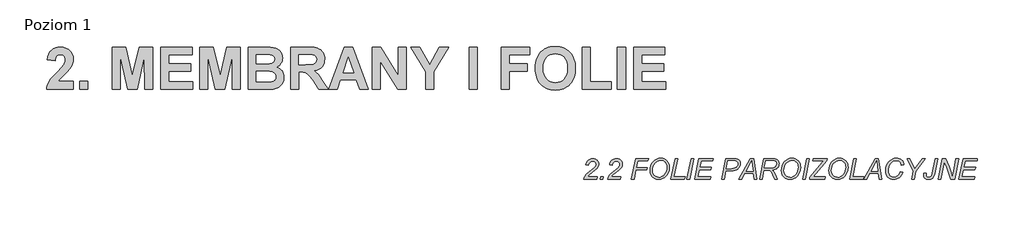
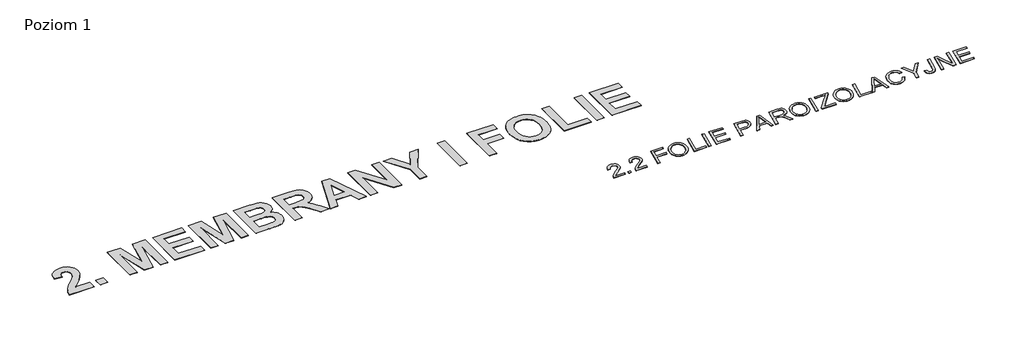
# One storey, incomplete: 2 proxies.
"""IFC4 building model written with IfcOpenShell, lengths in millimetres."""

import ifcopenshell
import ifcopenshell.guid

model = None  # the IFC model being written
_history = None  # IfcOwnerHistory: only IFC2X3 demands one
_inside = {}  # id of a spatial element -> (the spatial element, [elements in it])
_under = {}  # id of a project, library or spatial element -> (it, [spatial elements below it])
_declared = {}  # id of a project -> (the project, [libraries it declares])
_typed = {}  # id of a type object -> (the type object, [elements of that type])
_made_of = {}  # id of a material, layer set ... -> (it, [elements and type objects made of it])


def new_model(schema):
    """Start an empty IFC model of exactly this schema.

    Asked for "IFC4X3", IfcOpenShell would pick the latest addendum, in which some entities
    have other attributes; the version numbers below select the first issue.
    IFC2X3 requires an IfcOwnerHistory on every rooted entity: one is made here for all.
    """
    global model, _history
    if schema == "IFC4X3":
        model = ifcopenshell.file(schema_version=(4, 3, 0, 0))
    else:
        model = ifcopenshell.file(schema=schema)
    _inside.clear()
    _under.clear()
    _declared.clear()
    _typed.clear()
    _made_of.clear()
    _history = None
    if model.schema == "IFC2X3":
        org = make("IfcOrganization", Name="unknown")
        user = make(
            "IfcPersonAndOrganization",
            ThePerson=make("IfcPerson", FamilyName="unknown"),
            TheOrganization=org,
        )
        app = make(
            "IfcApplication",
            ApplicationDeveloper=org,
            Version="unknown",
            ApplicationFullName="unknown",
            ApplicationIdentifier="unknown",
        )
        _history = make(
            "IfcOwnerHistory",
            OwningUser=user,
            OwningApplication=app,
            ChangeAction="ADDED",
            CreationDate=0,
        )
    return model


def make(cls, **values):
    """One entity of the class cls with the attributes given. An attribute that is None is left unset."""
    return model.create_entity(
        cls, **{name: value for name, value in values.items() if value is not None}
    )


def rooted(cls, **values):
    """An entity with a GlobalId (a new one), such as an element, a storey or a relation."""
    return make(cls, GlobalId=ifcopenshell.guid.new(), OwnerHistory=_history, **values)


def si_unit(unit_type, name, prefix=None):
    """IfcSIUnit, for example si_unit("LENGTHUNIT", "METRE", prefix="MILLI")."""
    return make("IfcSIUnit", UnitType=unit_type, Prefix=prefix, Name=name)


def assignment(units):
    """IfcUnitAssignment: the units of a project."""
    return None if units is None else make("IfcUnitAssignment", Units=units)


def point(xyz):
    """IfcCartesianPoint."""
    return None if xyz is None else make("IfcCartesianPoint", Coordinates=xyz)


def direction(xyz):
    """IfcDirection."""
    return None if xyz is None else make("IfcDirection", DirectionRatios=xyz)


def frame(location, z_axis=None, x_axis=None):
    """IfcAxis2Placement3D, a coordinate frame: its origin and axes. An axis left out is left unset."""
    return make(
        "IfcAxis2Placement3D",
        Location=point(location),
        Axis=direction(z_axis),
        RefDirection=direction(x_axis),
    )


def origin():
    """The frame at (0, 0, 0) with its axes left unset."""
    return frame((0.0, 0.0, 0.0))


def origin_with_axes():
    """The frame at (0, 0, 0) with the z axis (0, 0, 1) and the x axis (1, 0, 0) written out."""
    return frame((0.0, 0.0, 0.0), z_axis=(0.0, 0.0, 1.0), x_axis=(1.0, 0.0, 0.0))


def place(relative_to, where):
    """IfcLocalPlacement: puts the frame where relative to a parent placement (None: the world)."""
    return make(
        "IfcLocalPlacement", PlacementRelTo=relative_to, RelativePlacement=where
    )


def context(
    kind, dimensions, precision=None, world=None, true_north=None, identifier=None
):
    """IfcGeometricRepresentationContext, for example the 3D "Model" context."""
    return make(
        "IfcGeometricRepresentationContext",
        ContextIdentifier=identifier,
        ContextType=kind,
        CoordinateSpaceDimension=dimensions,
        Precision=precision,
        WorldCoordinateSystem=world,
        TrueNorth=true_north,
    )


def project(units=None, contexts=None):
    """IfcProject with its units and contexts."""
    return rooted(
        "IfcProject",
        Name="project",
        RepresentationContexts=contexts,
        UnitsInContext=assignment(units),
    )


def spatial(cls, under=None, at=None, **own):
    """A site, building, storey or space (cls), placed at a placement, below another one or the project."""
    s = rooted(cls, ObjectPlacement=at, **own)
    if under is not None:
        _under.setdefault(under.id(), (under, []))[1].append(s)
    return s


def polyline(points):
    """IfcPolyline through the points."""
    return make("IfcPolyline", Points=[point(p) for p in points])


def outline(outer, holes=None, kind="AREA"):
    """IfcArbitraryClosedProfileDef: a profile drawn as a closed curve; with holes, ...WithVoids."""
    if holes is None:
        return make("IfcArbitraryClosedProfileDef", ProfileType=kind, OuterCurve=outer)
    return make(
        "IfcArbitraryProfileDefWithVoids",
        ProfileType=kind,
        OuterCurve=outer,
        InnerCurves=holes,
    )


def extrude(swept, where, along, depth):
    """IfcExtrudedAreaSolid: the profile swept, set in the frame where, extruded along a direction by depth."""
    return make(
        "IfcExtrudedAreaSolid",
        SweptArea=swept,
        Position=where,
        ExtrudedDirection=direction(along),
        Depth=depth,
    )


def shape(context_of_items, identifier, shape_type, items):
    """IfcShapeRepresentation: the items that make up one representation, for example the "Body"."""
    return make(
        "IfcShapeRepresentation",
        ContextOfItems=context_of_items,
        RepresentationIdentifier=identifier,
        RepresentationType=shape_type,
        Items=items,
    )


def made_of(thing, what):
    """Note that an element or type object is made of a material, layer set ...; save() writes the relation."""
    if what is not None:
        _made_of.setdefault(what.id(), (what, []))[1].append(thing)
    return thing


def element(
    cls,
    number,
    at=None,
    inside=None,
    cuts=None,
    type_object=None,
    material=None,
    context=None,
    identifier="Body",
    shape_type=None,
    held_by="IfcProductDefinitionShape",
    body=None,
    shapes=None,
    **own,
):
    """One element of the class cls, such as IfcWall. Its Tag is "e" and its number.

    at: its placement. inside: the storey or other place that contains it. cuts: it is an
    opening in that element (IfcRelVoidsElement). A single representation is given by context,
    identifier, shape_type and body (its items); several are given by shapes. held_by: the class
    of the entity that holds the representations. save() writes the other relations.
    """
    e = rooted(cls, Tag="e%d" % number, ObjectPlacement=at, **own)
    if body is not None:
        shapes = [shape(context, identifier, shape_type, body)]
    if shapes is not None:
        e.Representation = make(held_by, Representations=shapes)
    if inside is not None:
        _inside.setdefault(inside.id(), (inside, []))[1].append(e)
    if cuts is not None:
        rooted(
            "IfcRelVoidsElement", RelatingBuildingElement=cuts, RelatedOpeningElement=e
        )
    if type_object is not None:
        _typed.setdefault(type_object.id(), (type_object, []))[1].append(e)
    return made_of(e, material)


def aggregate(whole, parts):
    """IfcRelAggregates: a whole, such as a stair, and the parts it consists of."""
    return rooted("IfcRelAggregates", RelatingObject=whole, RelatedObjects=parts)


def save(model, path):
    """Write the relations noted so far, then the file.

    IfcRelAggregates (storeys below a building ...), IfcRelContainedInSpatialStructure (elements
    in a storey), IfcRelDefinesByType, IfcRelAssociatesMaterial and IfcRelDeclares: one each for
    every whole, place, type object, material and project.
    """
    for whole, parts in _under.values():
        aggregate(whole, parts)
    for where, things in _inside.values():
        rooted(
            "IfcRelContainedInSpatialStructure",
            RelatedElements=things,
            RelatingStructure=where,
        )
    for kind, things in _typed.values():
        rooted("IfcRelDefinesByType", RelatedObjects=things, RelatingType=kind)
    for what, things in _made_of.values():
        rooted("IfcRelAssociatesMaterial", RelatedObjects=things, RelatingMaterial=what)
    for by, libraries in _declared.values():
        rooted("IfcRelDeclares", RelatingContext=by, RelatedDefinitions=libraries)
    model.write(path)


model = new_model("IFC4")

# Units and contexts
model_context = context("Model", 3, world=origin())
ifc_project = project(units=[si_unit("LENGTHUNIT", "METRE", prefix="MILLI")], contexts=[model_context])

# Site, building, storey
site = spatial("IfcSite", under=ifc_project)
building = spatial("IfcBuilding", under=site)
storey = spatial("IfcBuildingStorey", under=building, Name="Poziom 1", Elevation=0.0)

# Proxies
placement = place(None, origin())
element("IfcBuildingElementProxy", 1, Name="400 mm Arial", ObjectType="400 mm Arial", at=placement, inside=storey, context=model_context, shape_type="SweptSolid", body=[
    extrude(outline(polyline([(-5822.0749351, 16251.1796723), (-5812.9528944, 16283.4355908), (-5800.8898025, 16310.000695), (-5785.1324635, 16333.1106618), (-5764.9276813, 16355.0011685), (-5678.609026, 16423.625695), (-5625.5266396, 16465.9003162), (-5607.8564218, 16485.4355908), (-5595.7813745, 16504.6361116), (-5591.0469995, 16518.1219071), (-5589.4688745, 16532.7554298), (-5594.3586709, 16556.3675274), (-5609.0280601, 16576.1299563), (-5630.8229228, 16589.5081524), (-5657.0891396, 16593.967551), (-5683.4510004, 16589.4483749), (-5706.2979464, 16575.8908465), (-5724.3626955, 16552.3385264), (-5736.3779654, 16517.8349753), (-5785.3476623, 16524.3387632), (-5780.10219, 16550.4256476), (-5771.4434247, 16573.5953919), (-5759.3713662, 16593.8479961), (-5743.8860146, 16611.1834601), (-5725.6389443, 16625.0757423), (-5705.2817296, 16634.998801), (-5682.8143704, 16640.9526363), (-5658.2368669, 16642.937248), (-5625.6103281, 16639.4103777), (-5596.2117722, 16628.8297669), (-5571.8823451, 16611.8768787), (-5554.4631927, 16589.233176), (-5543.9901813, 16563.325624), (-5540.4991775, 16536.5811874), (-5542.2685904, 16516.9682021), (-5547.576829, 16497.725837), (-5556.4238934, 16478.8540922), (-5568.8097836, 16460.3529677), (-5603.0981358, 16428.7904677), (-5671.1487987, 16376.5688768), (-5725.4267343, 16332.5726647), (-5752.2548593, 16300.1493692), (-5571.1052381, 16300.1493692), (-5580.765276, 16251.1796723), (-5822.0749351, 16251.1796723)])), origin_with_axes(), (0.0, 0.0, 1.0), 5.0),
    extrude(outline(polyline([(-5515.2491775, 16251.1796723), (-5503.7719048, 16300.1493692), (-5454.8022078, 16300.1493692), (-5465.3230411, 16251.1796723), (-5515.2491775, 16251.1796723)])), origin_with_axes(), (0.0, 0.0, 1.0), 5.0),
    extrude(outline(polyline([(-5369.1052381, 16251.1796723), (-5359.9831974, 16283.4355908), (-5347.9201055, 16310.000695), (-5332.1627665, 16333.1106618), (-5311.9579843, 16355.0011685), (-5225.639329, 16423.625695), (-5172.5569427, 16465.9003162), (-5154.8867248, 16485.4355908), (-5142.8116775, 16504.6361116), (-5138.0773025, 16518.1219071), (-5136.4991775, 16532.7554298), (-5141.3889739, 16556.3675274), (-5156.0583631, 16576.1299563), (-5177.8532258, 16589.5081524), (-5204.1194427, 16593.967551), (-5230.4813034, 16589.4483749), (-5253.3282495, 16575.8908465), (-5271.3929985, 16552.3385264), (-5283.4082684, 16517.8349753), (-5332.3779654, 16524.3387632), (-5327.1324931, 16550.4256476), (-5318.4737277, 16573.5953919), (-5306.4016692, 16593.8479961), (-5290.9163177, 16611.1834601), (-5272.6692473, 16625.0757423), (-5252.3120326, 16634.998801), (-5229.8446735, 16640.9526363), (-5205.2671699, 16642.937248), (-5172.6406311, 16639.4103777), (-5143.2420752, 16628.8297669), (-5118.9126481, 16611.8768787), (-5101.4934957, 16589.233176), (-5091.0204843, 16563.325624), (-5087.5294805, 16536.5811874), (-5089.2988934, 16516.9682021), (-5094.607132, 16497.725837), (-5103.4541964, 16478.8540922), (-5115.8400866, 16460.3529677), (-5150.1284389, 16428.7904677), (-5218.1791017, 16376.5688768), (-5272.4570373, 16332.5726647), (-5299.2851623, 16300.1493692), (-5118.1355411, 16300.1493692), (-5127.795579, 16251.1796723), (-5369.1052381, 16251.1796723)])), origin_with_axes(), (0.0, 0.0, 1.0), 5.0),
    extrude(outline(polyline([(-4916.1355411, 16251.1796723), (-4836.9423593, 16642.937248), (-4588.8419805, 16642.937248), (-4601.0844048, 16600.0887632), (-4795.8154654, 16600.0887632), (-4821.8306169, 16471.5433086), (-4614.0919805, 16471.5433086), (-4626.3344048, 16428.6948238), (-4830.5342154, 16428.6948238), (-4866.4006927, 16251.1796723), (-4916.1355411, 16251.1796723)])), origin_with_axes(), (0.0, 0.0, 1.0), 5.0),
    extrude(outline(polyline([(-4561.1052381, 16415.3046723), (-4557.3781133, 16465.0783761), (-4546.1967391, 16509.8606618), (-4527.5611152, 16549.6515295), (-4501.4712419, 16584.4509791), (-4470.0671522, 16612.716752), (-4435.4888792, 16632.9065899), (-4397.736423, 16645.0204926), (-4356.8097836, 16649.0584601), (-4322.4198096, 16646.0845314), (-4291.365418, 16637.1627452), (-4263.6466088, 16622.2931015), (-4239.263382, 16601.4756003), (-4219.3873759, 16575.6607033), (-4205.1902286, 16545.7988721), (-4196.6719403, 16511.8901067), (-4193.8325108, 16473.9344071), (-4199.5472362, 16418.9869639), (-4216.6914123, 16368.1522101), (-4236.0473546, 16334.1866562), (-4259.874651, 16305.170676), (-4286.8581974, 16281.6781334), (-4315.6828896, 16264.2828919), (-4356.3793858, 16249.8645681), (-4399.4669805, 16245.0584601), (-4443.7023025, 16250.6536306), (-4483.8249351, 16267.4391419), (-4517.2764029, 16294.2553115), (-4541.4982305, 16329.9424563), (-4556.2034862, 16371.3443266), (-4561.1052381, 16415.3046723)]), holes=[polyline([(-4512.1355411, 16412.7222859), (-4508.5608489, 16379.6175274), (-4497.8367722, 16349.358176), (-4480.0230885, 16323.6538673), (-4455.1795752, 16304.2142366), (-4426.0918622, 16291.9837679), (-4395.545579, 16287.906945), (-4366.0513792, 16291.4816372), (-4338.0157495, 16302.2057139), (-4312.1560194, 16319.3140236), (-4289.1895184, 16342.0414147), (-4269.9411756, 16370.5074421), (-4255.2359199, 16404.8316609), (-4245.9106358, 16441.809999), (-4242.8022078, 16478.2383844), (-4244.8495859, 16505.9781157), (-4250.9917201, 16530.7588626), (-4261.2286105, 16552.5806251), (-4275.560257, 16571.4434033), (-4292.8987099, 16586.6537785), (-4312.1560194, 16597.5183323), (-4333.3321853, 16604.0370645), (-4356.4272078, 16606.2099753), (-4386.3159389, 16602.9281926), (-4414.3874351, 16593.0828446), (-4440.6416964, 16576.6739312), (-4465.078723, 16553.7014526), (-4485.6660809, 16525.1995586), (-4500.3713366, 16492.2023995), (-4509.19449, 16454.7099753), (-4512.1355411, 16412.7222859)])]), origin_with_axes(), (0.0, 0.0, 1.0), 5.0),
    extrude(outline(polyline([(-4163.2264502, 16251.1796723), (-4083.6506927, 16642.937248), (-4033.9158442, 16642.937248), (-4104.7880033, 16294.0281571), (-3893.8931169, 16294.0281571), (-3906.1355411, 16251.1796723), (-4163.2264502, 16251.1796723)])), origin_with_axes(), (0.0, 0.0, 1.0), 5.0),
    extrude(outline(polyline([(-3857.1658442, 16251.1796723), (-3777.5900866, 16642.937248), (-3727.8552381, 16642.937248), (-3807.4309957, 16251.1796723), (-3857.1658442, 16251.1796723)])), origin_with_axes(), (0.0, 0.0, 1.0), 5.0),
    extrude(outline(polyline([(-3710.2567533, 16251.1796723), (-3630.6809957, 16642.937248), (-3355.2264502, 16642.937248), (-3361.4433063, 16600.0887632), (-3589.6497457, 16600.0887632), (-3614.5171699, 16477.6645207), (-3391.953723, 16477.6645207), (-3404.1961472, 16434.8160359), (-3623.2207684, 16434.8160359), (-3651.8183063, 16294.0281571), (-3406.3003139, 16294.0281571), (-3415.482132, 16251.1796723), (-3710.2567533, 16251.1796723)])), origin_with_axes(), (0.0, 0.0, 1.0), 5.0),
    extrude(outline(polyline([(-3196.0749351, 16251.1796723), (-3116.8817533, 16642.937248), (-2953.6175487, 16642.937248), (-2916.5316112, 16640.4983276), (-2890.014329, 16633.1815662), (-2870.6225203, 16619.9587916), (-2854.9130033, 16599.8018313), (-2844.5117248, 16574.7431192), (-2841.044632, 16546.8150889), (-2843.519419, 16522.3182849), (-2850.9437798, 16497.4149942), (-2862.1460762, 16474.5082707), (-2875.9546699, 16456.0011685), (-2891.1620563, 16441.7023995), (-2906.5607305, 16431.420676), (-2939.7491775, 16419.1304298), (-2977.6480885, 16412.530998), (-3015.9773972, 16410.3311874), (-3114.108079, 16410.3311874), (-3146.2444427, 16251.1796723), (-3196.0749351, 16251.1796723)]), holes=[polyline([(-3105.4044805, 16453.1796723), (-3017.4120563, 16453.1796723), (-2973.0452239, 16455.9055245), (-2942.2837419, 16464.0830813), (-2920.775811, 16477.8438531), (-2904.169632, 16497.3193503), (-2893.5531548, 16520.3336732), (-2890.014329, 16544.7109223), (-2891.9272078, 16562.2615851), (-2897.6658442, 16576.2734223), (-2906.8954843, 16586.901855), (-2919.2813745, 16594.3023048), (-2939.6535336, 16598.6421486), (-2972.8419805, 16600.0887632), (-3075.6592154, 16600.0887632), (-3105.4044805, 16453.1796723)])]), origin_with_axes(), (0.0, 0.0, 1.0), 5.0),
    extrude(outline(polyline([(-2867.7292911, 16251.1796723), (-2648.513382, 16642.937248), (-2586.5361093, 16642.937248), (-2524.8457684, 16251.1796723), (-2574.2936851, 16251.1796723), (-2589.9792911, 16361.3614904), (-2753.0522078, 16361.3614904), (-2812.8296699, 16251.1796723), (-2867.7292911, 16251.1796723)]), holes=[polyline([(-2727.7065639, 16404.2099753), (-2596.0048593, 16404.2099753), (-2609.7775866, 16502.1493692), (-2623.7416017, 16600.0887632), (-2666.8770184, 16520.5130056), (-2727.7065639, 16404.2099753)])]), origin_with_axes(), (0.0, 0.0, 1.0), 5.0),
    extrude(outline(polyline([(-2473.7719048, 16251.1796723), (-2394.1961472, 16642.937248), (-2228.732132, 16642.937248), (-2185.6804038, 16640.8569923), (-2154.4646131, 16634.6162253), (-2131.8926434, 16622.6368219), (-2114.7723783, 16603.3406571), (-2103.9765686, 16577.3972385), (-2100.3779654, 16545.4760738), (-2102.3147552, 16522.0791751), (-2108.1251245, 16500.7625321), (-2117.8090733, 16481.5261448), (-2131.3666017, 16464.3700132), (-2149.2460407, 16449.6707352), (-2171.8957211, 16437.804909), (-2199.3156429, 16428.7725345), (-2231.5058063, 16422.5736116), (-2212.7835052, 16408.2509317), (-2199.2737987, 16394.1673616), (-2180.1210998, 16358.946481), (-2165.1289123, 16322.530051), (-2131.0796699, 16251.1796723), (-2184.544632, 16251.1796723), (-2218.7851623, 16322.9126268), (-2233.9208158, 16359.3051457), (-2251.0171699, 16390.437248), (-2264.6105648, 16406.8282281), (-2278.8017343, 16416.4045776), (-2297.7990118, 16421.0313531), (-2325.8107305, 16422.5736116), (-2389.2226623, 16422.5736116), (-2424.0370563, 16251.1796723), (-2473.7719048, 16251.1796723)]), holes=[polyline([(-2380.5190639, 16465.4220965), (-2305.4385714, 16465.4220965), (-2237.6270184, 16465.4220965), (-2210.667383, 16470.3955813), (-2189.0877192, 16479.1948238), (-2172.3141633, 16491.7600463), (-2159.7728517, 16508.0314715), (-2151.9539597, 16526.8374611), (-2149.3476623, 16547.0063768), (-2151.3322741, 16563.4690899), (-2157.2861093, 16577.6602594), (-2166.4679275, 16588.6234459), (-2178.1364881, 16595.4022101), (-2195.5675961, 16598.9171249), (-2222.0370563, 16600.0887632), (-2353.1648972, 16600.0887632), (-2380.5190639, 16465.4220965)])]), origin_with_axes(), (0.0, 0.0, 1.0), 5.0),
    extrude(outline(polyline([(-2057.5294805, 16415.3046723), (-2053.8023558, 16465.0783761), (-2042.6209815, 16509.8606618), (-2023.9853577, 16549.6515295), (-1997.8954843, 16584.4509791), (-1966.4913946, 16612.716752), (-1931.9131216, 16632.9065899), (-1894.1606654, 16645.0204926), (-1853.234026, 16649.0584601), (-1818.844052, 16646.0845314), (-1787.7896605, 16637.1627452), (-1760.0708513, 16622.2931015), (-1735.6876245, 16601.4756003), (-1715.8116183, 16575.6607033), (-1701.6144711, 16545.7988721), (-1693.0961827, 16511.8901067), (-1690.2567533, 16473.9344071), (-1695.9714786, 16418.9869639), (-1713.1156548, 16368.1522101), (-1732.471597, 16334.1866562), (-1756.2988934, 16305.170676), (-1783.2824398, 16281.6781334), (-1812.107132, 16264.2828919), (-1852.8036283, 16249.8645681), (-1895.891223, 16245.0584601), (-1940.1265449, 16250.6536306), (-1980.2491775, 16267.4391419), (-2013.7006453, 16294.2553115), (-2037.922473, 16329.9424563), (-2052.6277286, 16371.3443266), (-2057.5294805, 16415.3046723)]), holes=[polyline([(-2008.5597836, 16412.7222859), (-2004.9850913, 16379.6175274), (-1994.2610146, 16349.358176), (-1976.4473309, 16323.6538673), (-1951.6038177, 16304.2142366), (-1922.5161046, 16291.9837679), (-1891.9698214, 16287.906945), (-1862.4756216, 16291.4816372), (-1834.4399919, 16302.2057139), (-1808.5802618, 16319.3140236), (-1785.6137608, 16342.0414147), (-1766.365418, 16370.5074421), (-1751.6601623, 16404.8316609), (-1742.3348783, 16441.809999), (-1739.2264502, 16478.2383844), (-1741.2738283, 16505.9781157), (-1747.4159625, 16530.7588626), (-1757.6528529, 16552.5806251), (-1771.9844995, 16571.4434033), (-1789.3229524, 16586.6537785), (-1808.5802618, 16597.5183323), (-1829.7564277, 16604.0370645), (-1852.8514502, 16606.2099753), (-1882.7401813, 16602.9281926), (-1910.8116775, 16593.0828446), (-1937.0659389, 16576.6739312), (-1961.5029654, 16553.7014526), (-1982.0903233, 16525.1995586), (-1996.795579, 16492.2023995), (-2005.6187324, 16454.7099753), (-2008.5597836, 16412.7222859)])]), origin_with_axes(), (0.0, 0.0, 1.0), 5.0),
    extrude(outline(polyline([(-1653.5294805, 16251.1796723), (-1573.953723, 16642.937248), (-1524.2188745, 16642.937248), (-1603.794632, 16251.1796723), (-1653.5294805, 16251.1796723)])), origin_with_axes(), (0.0, 0.0, 1.0), 5.0),
    extrude(outline(polyline([(-1518.8628139, 16251.1796723), (-1512.7416017, 16287.906945), (-1315.9063745, 16522.2345965), (-1274.9707684, 16570.7260738), (-1250.390276, 16600.0887632), (-1285.4916017, 16600.0887632), (-1298.4991775, 16600.0887632), (-1314.1847836, 16600.0887632), (-1329.5834578, 16600.0887632), (-1462.8154654, 16600.0887632), (-1453.5380033, 16642.937248), (-1182.1961472, 16642.937248), (-1187.265276, 16601.905998), (-1397.7775866, 16351.4145207), (-1445.982132, 16294.0281571), (-1431.0616775, 16294.0281571), (-1221.4101623, 16294.0281571), (-1230.6876245, 16251.1796723), (-1518.8628139, 16251.1796723)])), origin_with_axes(), (0.0, 0.0, 1.0), 5.0),
    extrude(outline(polyline([(-1151.5900866, 16415.3046723), (-1147.8629618, 16465.0783761), (-1136.6815875, 16509.8606618), (-1118.0459637, 16549.6515295), (-1091.9560904, 16584.4509791), (-1060.5520007, 16612.716752), (-1025.9737277, 16632.9065899), (-988.2212715, 16645.0204926), (-947.294632, 16649.0584601), (-912.9046581, 16646.0845314), (-881.8502665, 16637.1627452), (-854.1314573, 16622.2931015), (-829.7482305, 16601.4756003), (-809.8722244, 16575.6607033), (-795.6750771, 16545.7988721), (-787.1567888, 16511.8901067), (-784.3173593, 16473.9344071), (-790.0320847, 16418.9869639), (-807.1762608, 16368.1522101), (-826.5322031, 16334.1866562), (-850.3594995, 16305.170676), (-877.3430459, 16281.6781334), (-906.1677381, 16264.2828919), (-946.8642343, 16249.8645681), (-989.951829, 16245.0584601), (-1034.187151, 16250.6536306), (-1074.3097836, 16267.4391419), (-1107.7612514, 16294.2553115), (-1131.983079, 16329.9424563), (-1146.6883347, 16371.3443266), (-1151.5900866, 16415.3046723)]), holes=[polyline([(-1102.6203896, 16412.7222859), (-1099.0456974, 16379.6175274), (-1088.3216207, 16349.358176), (-1070.507937, 16323.6538673), (-1045.6644237, 16304.2142366), (-1016.5767106, 16291.9837679), (-986.0304275, 16287.906945), (-956.5362277, 16291.4816372), (-928.500598, 16302.2057139), (-902.6408678, 16319.3140236), (-879.6743669, 16342.0414147), (-860.4260241, 16370.5074421), (-845.7207684, 16404.8316609), (-836.3954843, 16441.809999), (-833.2870563, 16478.2383844), (-835.3344344, 16505.9781157), (-841.4765686, 16530.7588626), (-851.713459, 16552.5806251), (-866.0451055, 16571.4434033), (-883.3835584, 16586.6537785), (-902.6408678, 16597.5183323), (-923.8170338, 16604.0370645), (-946.9120563, 16606.2099753), (-976.8007873, 16602.9281926), (-1004.8722836, 16593.0828446), (-1031.1265449, 16576.6739312), (-1055.5635714, 16553.7014526), (-1076.1509294, 16525.1995586), (-1090.8561851, 16492.2023995), (-1099.6793385, 16454.7099753), (-1102.6203896, 16412.7222859)])]), origin_with_axes(), (0.0, 0.0, 1.0), 5.0),
    extrude(outline(polyline([(-753.7112987, 16251.1796723), (-674.1355411, 16642.937248), (-624.4006927, 16642.937248), (-695.2728517, 16294.0281571), (-484.3779654, 16294.0281571), (-496.6203896, 16251.1796723), (-753.7112987, 16251.1796723)])), origin_with_axes(), (0.0, 0.0, 1.0), 5.0),
    extrude(outline(polyline([(-486.577776, 16251.1796723), (-267.3618669, 16642.937248), (-205.3845942, 16642.937248), (-143.6942533, 16251.1796723), (-193.1421699, 16251.1796723), (-208.827776, 16361.3614904), (-371.9006927, 16361.3614904), (-431.6781548, 16251.1796723), (-486.577776, 16251.1796723)]), holes=[polyline([(-346.5550487, 16404.2099753), (-214.8533442, 16404.2099753), (-228.6260714, 16502.1493692), (-242.5900866, 16600.0887632), (-285.7255033, 16520.5130056), (-346.5550487, 16404.2099753)])]), origin_with_axes(), (0.0, 0.0, 1.0), 5.0),
    extrude(outline(polyline([(213.4402164, 16391.967551), (262.4099134, 16385.8463389), (248.7746743, 16353.198878), (232.3538055, 16324.7896391), (213.1473069, 16300.6186223), (191.1551786, 16280.6858276), (167.0529058, 16265.0988543), (141.515974, 16253.965302), (114.5443831, 16247.2851706), (86.1381331, 16245.0584601), (52.4475555, 16247.7723569), (22.4392695, 16255.9140473), (-3.8867248, 16269.4835312), (-26.5304275, 16288.4808086), (-44.7326647, 16312.5412371), (-57.7342627, 16341.3001741), (-65.5352215, 16374.7576197), (-68.1355411, 16412.9135738), (-64.1722954, 16463.4195515), (-52.2825582, 16509.3465757), (-32.4663295, 16550.6946462), (-4.7236093, 16587.4637632), (25.206966, 16614.4114431), (58.5687676, 16633.6597859), (95.3617955, 16645.2087916), (135.5860498, 16649.0584601), (165.1489937, 16646.9841822), (191.7649087, 16640.7613484), (215.4337948, 16630.3899587), (236.155652, 16615.8700132), (253.3805278, 16597.8471083), (266.5584693, 16576.9668408), (275.6894766, 16553.2292106), (280.7735498, 16526.6342177), (231.8038528, 16520.5130056), (220.1831142, 16558.1847622), (211.1806284, 16572.9228955), (200.0500649, 16584.9291988), (186.9707562, 16594.2395385), (172.1220346, 16600.8897812), (137.1163528, 16606.2099753), (102.6426904, 16602.2228186), (71.6241653, 16590.2613484), (44.0607775, 16570.3255648), (19.952527, 16542.4154677), (2.8382396, 16513.6326197), (-9.3862514, 16482.2793408), (-16.720946, 16448.3556311), (-19.1658442, 16411.8614904), (-17.2768764, 16383.4701848), (-11.609973, 16358.6475937), (-2.1651339, 16337.393717), (11.0576407, 16319.7085548), (27.3111326, 16305.7953505), (45.8481236, 16295.8573474), (66.6686137, 16289.8945456), (89.7726028, 16287.906945), (109.9863516, 16289.6046249), (129.2137723, 16294.6976647), (147.4548649, 16303.1860643), (164.7096293, 16315.0698238), (180.3264913, 16330.0620113), (193.6538765, 16347.875695), (204.6917849, 16368.5108749), (213.4402164, 16391.967551)])), origin_with_axes(), (0.0, 0.0, 1.0), 5.0),
    extrude(outline(polyline([(427.6826407, 16251.1796723), (458.0974134, 16401.1493692), (339.7858604, 16642.937248), (393.3464664, 16642.937248), (450.7328301, 16529.8861116), (487.4601028, 16450.6929298), (510.5820252, 16486.702873), (543.4118073, 16525.4864904), (631.3085877, 16642.937248), (690.5121861, 16642.937248), (506.9714664, 16397.2279677), (477.4174892, 16251.1796723), (427.6826407, 16251.1796723)])), origin_with_axes(), (0.0, 0.0, 1.0), 5.0),
    extrude(outline(polyline([(658.1845346, 16367.4827026), (707.4411634, 16367.4827026), (703.1371861, 16334.6768313), (706.508635, 16315.5002215), (716.6229816, 16300.6275889), (732.7628964, 16291.087106), (754.2110498, 16287.906945), (770.5661634, 16289.8676457), (784.8171104, 16295.749748), (796.7965138, 16305.7206287), (806.3369967, 16319.9476647), (819.4402164, 16364.8046723), (874.5311255, 16642.937248), (923.8833983, 16642.937248), (867.549118, 16356.4836495), (860.2891452, 16328.6393077), (850.942939, 16305.0750321), (839.5104993, 16285.7908228), (825.9918263, 16270.7866798), (810.4227863, 16259.5305837), (792.8392458, 16251.4905151), (773.2412048, 16246.6664739), (751.6286634, 16245.0584601), (728.9999051, 16246.4811637), (709.3181757, 16250.7492745), (692.5834752, 16257.8627925), (678.7958036, 16267.8217177), (668.020916, 16280.3510738), (660.3245678, 16295.1758844), (655.7067588, 16312.2961495), (654.1674892, 16331.7118692), (658.1845346, 16367.4827026)])), origin_with_axes(), (0.0, 0.0, 1.0), 5.0),
    extrude(outline(polyline([(935.7432467, 16251.1796723), (1015.3190043, 16642.937248), (1082.6523377, 16642.937248), (1141.9515801, 16491.3416041), (1184.9913528, 16374.5603541), (1206.1286634, 16300.1493692), (1227.7441937, 16411.2876268), (1272.7924892, 16642.937248), (1322.4316937, 16642.937248), (1246.299118, 16251.1796723), (1173.9922998, 16251.1796723), (1092.9818831, 16476.2298616), (1053.4809361, 16585.7421723), (1033.8739286, 16489.0461495), (985.4780952, 16251.1796723), (935.7432467, 16251.1796723)])), origin_with_axes(), (0.0, 0.0, 1.0), 5.0),
    extrude(outline(polyline([(1327.5008225, 16251.1796723), (1407.0765801, 16642.937248), (1682.5311255, 16642.937248), (1676.3142695, 16600.0887632), (1448.1078301, 16600.0887632), (1423.2404058, 16477.6645207), (1645.8038528, 16477.6645207), (1633.5614286, 16434.8160359), (1414.5368073, 16434.8160359), (1385.9392695, 16294.0281571), (1631.4572619, 16294.0281571), (1622.2754437, 16251.1796723), (1327.5008225, 16251.1796723)])), origin_with_axes(), (0.0, 0.0, 1.0), 5.0),
])
element("IfcBuildingElementProxy", 2, Name="800", ObjectType="800", at=placement, inside=storey, context=model_context, shape_type="SweptSolid", body=[
    extrude(outline(polyline([(-15561.0553841, 18116.7896585), (-15561.0553841, 17963.7896585), (-16071.0553841, 17963.7896585), (-16064.9418587, 18002.905015), (-16054.7692513, 18040.9620218), (-16040.5375618, 18077.9606791), (-16022.2467904, 18113.9009867), (-15996.9833626, 18152.2194681), (-15961.8337044, 18196.3526468), (-15916.7978157, 18246.3005228), (-15861.8756966, 18302.063096), (-15783.9811654, 18381.4517679), (-15743.5397591, 18430.359971), (-15730.640345, 18453.5938578), (-15721.4264779, 18476.6783304), (-15715.8981575, 18499.613389), (-15714.0553841, 18522.3990335), (-15715.605555, 18546.1371927), (-15720.2560677, 18566.9493265), (-15728.0069222, 18584.8354349), (-15738.8581185, 18599.7955179), (-15752.4361214, 18611.6054544), (-15768.3673958, 18620.0411234), (-15786.6519417, 18625.1025248), (-15807.2897591, 18626.7896585), (-15827.709681, 18625.1274271), (-15845.9381966, 18620.1407328), (-15861.975306, 18611.8295755), (-15875.8210091, 18600.1939554), (-15887.2262825, 18584.7109232), (-15895.9421029, 18564.8575296), (-15901.96847, 18540.6337748), (-15905.3053841, 18512.0396585), (-16058.3053841, 18525.984971), (-16048.2448372, 18585.8813333), (-16031.2116341, 18636.675889), (-16007.2057747, 18678.368638), (-15976.2272591, 18710.9595804), (-15939.6083626, 18735.4946146), (-15898.6813607, 18753.019639), (-15853.4462532, 18763.5346537), (-15803.9030404, 18767.0396585), (-15750.2633919, 18763.1113138), (-15702.6999154, 18751.3262796), (-15661.2126107, 18731.684556), (-15625.8014779, 18704.1861429), (-15597.4750618, 18670.8481302), (-15577.2419075, 18633.6876078), (-15565.102015, 18592.7045755), (-15561.0553841, 18547.8990335), (-15565.4880013, 18496.0025492), (-15578.7858529, 18446.6959085), (-15601.6960091, 18397.538682), (-15634.9655404, 18346.0904398), (-15671.4972786, 18303.5572367), (-15730.0924935, 18245.6841898), (-15817.4499154, 18158.625596), (-15846.1374154, 18116.7896585), (-15561.0553841, 18116.7896585)])), origin_with_axes(), (0.0, 0.0, 1.0), 5.0),
    extrude(outline(polyline([(-15433.5553841, 17963.7896585), (-15433.5553841, 18116.7896585), (-15280.5553841, 18116.7896585), (-15280.5553841, 17963.7896585), (-15433.5553841, 17963.7896585)])), origin_with_axes(), (0.0, 0.0, 1.0), 5.0),
    extrude(outline(polyline([(-14821.5553841, 17963.7896585), (-14821.5553841, 18767.0396585), (-14559.3835091, 18767.0396585), (-14432.6803841, 18219.188096), (-14305.9772591, 18767.0396585), (-14043.8053841, 18767.0396585), (-14043.8053841, 17963.7896585), (-14196.8053841, 17963.7896585), (-14203.1803841, 18596.109971), (-14343.0319466, 17963.7896585), (-14522.1296029, 17963.7896585), (-14662.1803841, 18596.109971), (-14668.5553841, 17963.7896585), (-14821.5553841, 17963.7896585)])), origin_with_axes(), (0.0, 0.0, 1.0), 5.0),
    extrude(outline(polyline([(-13890.8053841, 17963.7896585), (-13890.8053841, 18767.0396585), (-13291.5553841, 18767.0396585), (-13291.5553841, 18626.7896585), (-13737.8053841, 18626.7896585), (-13737.8053841, 18448.2896585), (-13317.0553841, 18448.2896585), (-13317.0553841, 18308.0396585), (-13737.8053841, 18308.0396585), (-13737.8053841, 18104.0396585), (-13278.8053841, 18104.0396585), (-13278.8053841, 17963.7896585), (-13890.8053841, 17963.7896585)])), origin_with_axes(), (0.0, 0.0, 1.0), 5.0),
    extrude(outline(polyline([(-13151.3053841, 17963.7896585), (-13151.3053841, 18767.0396585), (-12889.1335091, 18767.0396585), (-12762.4303841, 18219.188096), (-12635.7272591, 18767.0396585), (-12373.5553841, 18767.0396585), (-12373.5553841, 17963.7896585), (-12526.5553841, 17963.7896585), (-12532.9303841, 18596.109971), (-12672.7819466, 17963.7896585), (-12851.8796029, 17963.7896585), (-12991.9303841, 18596.109971), (-12998.3053841, 17963.7896585), (-13151.3053841, 17963.7896585)])), origin_with_axes(), (0.0, 0.0, 1.0), 5.0),
    extrude(outline(polyline([(-12220.5553841, 18767.0396585), (-11890.8483529, 18767.0396585), (-11805.4582161, 18765.047471), (-11744.9206185, 18759.0709085), (-11699.3493294, 18746.7442484), (-11658.8581185, 18725.7017679), (-11624.0695443, 18696.1177835), (-11595.6061654, 18658.1666117), (-11584.5370736, 18636.4579935), (-11576.6305794, 18613.4669046), (-11571.8866829, 18589.1933451), (-11570.3053841, 18563.6373148), (-11572.1917366, 18535.9210062), (-11577.8507943, 18509.3502054), (-11587.282557, 18483.9249124), (-11600.4870247, 18459.6451273), (-11616.9287972, 18437.4197855), (-11636.072474, 18418.1578226), (-11657.918055, 18401.8592386), (-11682.4655404, 18388.5240335), (-11651.213099, 18375.9981546), (-11623.7956185, 18359.7369242), (-11600.213099, 18339.7403421), (-11580.4655404, 18316.0084085), (-11564.864222, 18289.2757425), (-11553.7204232, 18260.2769632), (-11547.0341439, 18229.0120707), (-11544.8053841, 18195.4810648), (-11546.4053597, 18168.3810892), (-11551.2052865, 18141.6670999), (-11570.4049935, 18089.3970804), (-11584.3752083, 18064.9429789), (-11600.6862435, 18043.078721), (-11619.338099, 18023.804307), (-11640.3307747, 18007.1197367), (-11663.782557, 17993.2055521), (-11689.8117318, 17982.2422953), (-11718.4182991, 17974.2299662), (-11749.6022591, 17969.1685648), (-11819.0299935, 17965.632432), (-11946.0319466, 17963.7896585), (-12220.5553841, 17963.7896585), (-12220.5553841, 18767.0396585)]), holes=[polyline([(-12067.5553841, 18626.7896585), (-12067.5553841, 18448.2896585), (-11950.8131966, 18448.2896585), (-11821.3210091, 18450.8795023), (-11780.5558724, 18460.1929789), (-11763.8152718, 18468.2488871), (-11749.5026497, 18478.5709085), (-11738.041346, 18490.9349222), (-11729.8547005, 18505.116807), (-11724.9427132, 18521.1165628), (-11723.3053841, 18538.9341898), (-11728.9582161, 18571.2823343), (-11736.0242562, 18584.9723978), (-11745.9167122, 18597.0064554), (-11758.5857796, 18607.1105814), (-11773.9816536, 18615.0108499), (-11812.9538216, 18624.1998148), (-11965.1569466, 18626.7896585), (-12067.5553841, 18626.7896585)]), polyline([(-12067.5553841, 18308.0396585), (-12067.5553841, 18104.0396585), (-11905.7897591, 18104.0396585), (-11828.4928841, 18105.234971), (-11785.8600716, 18108.8209085), (-11750.4489388, 18119.504014), (-11722.3092904, 18139.2017679), (-11711.5888314, 18152.3315287), (-11703.9313607, 18167.5157328), (-11699.3368782, 18184.7543802), (-11697.8053841, 18204.047471), (-11702.5368294, 18235.7232523), (-11716.7311654, 18262.219346), (-11739.8405404, 18282.8882914), (-11771.3171029, 18297.0826273), (-11827.8952279, 18305.3004007), (-11926.3092904, 18308.0396585), (-12067.5553841, 18308.0396585)])]), origin_with_axes(), (0.0, 0.0, 1.0), 5.0),
    extrude(outline(polyline([(-11417.3053841, 17963.7896585), (-11417.3053841, 18767.0396585), (-11079.4303841, 18767.0396585), (-10969.3620247, 18761.6109476), (-10927.4015755, 18754.8250589), (-10894.1569466, 18745.3248148), (-10866.7145638, 18732.3506937), (-10842.1608529, 18715.1431742), (-10820.4958138, 18693.7022562), (-10801.7194466, 18668.0279398), (-10786.5539193, 18639.2283792), (-10775.7213997, 18608.4117289), (-10769.221888, 18575.5779886), (-10767.0553841, 18540.7271585), (-10770.1868538, 18497.2850199), (-10779.581263, 18457.8023539), (-10795.2386116, 18422.2791605), (-10817.1588997, 18390.7154398), (-10845.3172249, 18363.8707132), (-10879.6886849, 18342.5045023), (-10920.2732796, 18326.616807), (-10967.0710091, 18316.2076273), (-10922.6950325, 18284.2330179), (-10886.7858529, 18249.2701273), (-10849.631556, 18198.6187601), (-10801.5202279, 18119.578721), (-10703.3053841, 17963.7896585), (-10882.0046029, 17963.7896585), (-10998.3483529, 18147.2701273), (-11054.5529427, 18217.7188578), (-11089.6901497, 18256.1431742), (-11115.0407357, 18275.0440531), (-11141.8854622, 18286.922471), (-11177.5207161, 18293.1978617), (-11229.2428841, 18295.2896585), (-11264.3053841, 18295.2896585), (-11264.3053841, 17963.7896585), (-11417.3053841, 17963.7896585)]), holes=[polyline([(-11264.3053841, 18435.5396585), (-11138.1999154, 18435.5396585), (-11038.6652474, 18437.8555765), (-10985.100306, 18444.8033304), (-10957.8571419, 18457.4039164), (-10937.287806, 18476.6783304), (-10924.3634896, 18502.1036234), (-10920.0553841, 18533.156846), (-10925.7331185, 18567.5469828), (-10932.8302865, 18581.9965677), (-10942.7663216, 18594.6158304), (-10970.1588997, 18613.7159281), (-11006.9147591, 18624.1998148), (-11131.2272591, 18626.7896585), (-11264.3053841, 18626.7896585), (-11264.3053841, 18435.5396585)])]), origin_with_axes(), (0.0, 0.0, 1.0), 5.0),
    extrude(outline(polyline([(-9938.3053841, 17963.7896585), (-10099.0749154, 17963.7896585), (-10162.0280404, 18142.2896585), (-10465.4381966, 18142.2896585), (-10527.5944466, 17963.7896585), (-10690.5553841, 17963.7896585), (-10397.3053841, 18767.0396585), (-10234.3444466, 18767.0396585), (-9938.3053841, 17963.7896585)]), holes=[polyline([(-10211.0358529, 18282.5396585), (-10314.4303841, 18575.7896585), (-10416.4303841, 18282.5396585), (-10211.0358529, 18282.5396585)])]), origin_with_axes(), (0.0, 0.0, 1.0), 5.0),
    extrude(outline(polyline([(-9861.8053841, 17963.7896585), (-9861.8053841, 18767.0396585), (-9701.4342904, 18767.0396585), (-9364.5553841, 18226.359971), (-9364.5553841, 18767.0396585), (-9211.5553841, 18767.0396585), (-9211.5553841, 17963.7896585), (-9376.9069466, 17963.7896585), (-9708.8053841, 18496.500596), (-9708.8053841, 17963.7896585), (-9861.8053841, 17963.7896585)])), origin_with_axes(), (0.0, 0.0, 1.0), 5.0),
    extrude(outline(polyline([(-8841.8053841, 17963.7896585), (-8841.8053841, 18301.8638773), (-9128.6803841, 18767.0396585), (-8951.3756966, 18767.0396585), (-8765.7038216, 18436.9341898), (-8579.2350716, 18767.0396585), (-8401.9303841, 18767.0396585), (-8688.8053841, 18300.6685648), (-8688.8053841, 17963.7896585), (-8841.8053841, 17963.7896585)])), origin_with_axes(), (0.0, 0.0, 1.0), 5.0),
    extrude(outline(polyline([(-8013.0553841, 17963.7896585), (-8013.0553841, 18767.0396585), (-7860.0553841, 18767.0396585), (-7860.0553841, 17963.7896585), (-8013.0553841, 17963.7896585)])), origin_with_axes(), (0.0, 0.0, 1.0), 5.0),
    extrude(outline(polyline([(-7401.0553841, 17963.7896585), (-7401.0553841, 18767.0396585), (-6852.8053841, 18767.0396585), (-6852.8053841, 18626.7896585), (-7248.0553841, 18626.7896585), (-7248.0553841, 18448.2896585), (-6903.8053841, 18448.2896585), (-6903.8053841, 18308.0396585), (-7248.0553841, 18308.0396585), (-7248.0553841, 17963.7896585), (-7401.0553841, 17963.7896585)])), origin_with_axes(), (0.0, 0.0, 1.0), 5.0),
    extrude(outline(polyline([(-6750.8053841, 18360.4341898), (-6748.551722, 18419.2286234), (-6741.7907357, 18473.0923929), (-6730.5224251, 18522.0254984), (-6714.7467904, 18566.0279398), (-6682.9464974, 18624.0753031), (-6641.334681, 18675.8970804), (-6592.6007943, 18718.3057718), (-6566.5716195, 18734.7848978), (-6539.4342904, 18748.1138773), (-6501.159388, 18761.9720316), (-6460.0456185, 18771.8707132), (-6416.0929818, 18777.8099222), (-6369.3014779, 18779.7896585), (-6326.8118538, 18778.0729532), (-6286.5011849, 18772.9228373), (-6248.369471, 18764.3393106), (-6212.4167122, 18752.3223734), (-6178.6429085, 18736.8720255), (-6147.0480599, 18717.9882669), (-6117.6321663, 18695.6710978), (-6090.3952279, 18669.9205179), (-6065.8819832, 18641.1131754), (-6044.6371712, 18609.6257181), (-6026.6607918, 18575.4581461), (-6011.952845, 18538.6104593), (-6000.5133309, 18499.0826578), (-5992.3422493, 18456.8747416), (-5987.4396004, 18411.9867105), (-5985.8053841, 18364.4185648), (-5987.4271492, 18317.1819315), (-5992.2924447, 18272.5911722), (-6000.4012703, 18230.646287), (-6011.7536263, 18191.3472757), (-6026.3495125, 18154.6941385), (-6044.188929, 18120.6868753), (-6065.2718758, 18089.3254862), (-6089.5983529, 18060.609971), (-6116.6422982, 18034.9294291), (-6145.8776497, 18012.6729593), (-6177.3044075, 17993.8405619), (-6210.9225716, 17978.4322367), (-6246.7321419, 17966.4479837), (-6284.7331185, 17957.8878031), (-6324.9255013, 17952.7516947), (-6367.3092904, 17951.0396585), (-6410.1599984, 17952.7439127), (-6450.7570443, 17957.8566751), (-6489.1004281, 17966.3779459), (-6525.1901497, 17978.3077249), (-6559.0262093, 17993.6460123), (-6590.6086068, 18012.392808), (-6619.9373421, 18034.5481119), (-6647.0124154, 18060.1119242), (-6671.3388924, 18088.6640177), (-6692.4218392, 18119.7841654), (-6710.2612557, 18153.4723673), (-6724.8571419, 18189.7286234), (-6736.2094979, 18228.5529337), (-6744.3183236, 18269.9452982), (-6749.183619, 18313.9057169), (-6750.8053841, 18360.4341898)]), holes=[polyline([(-6597.8053841, 18366.0123148), (-6593.7400765, 18302.4739847), (-6581.5441536, 18247.1285257), (-6561.2176156, 18199.9759378), (-6532.7604622, 18161.016221), (-6498.0403695, 18130.5108499), (-6458.925013, 18108.7212992), (-6415.4143929, 18095.6475687), (-6367.5085091, 18091.2896585), (-6319.65243, 18095.6164408), (-6276.291224, 18108.5967874), (-6237.4248909, 18130.2306986), (-6203.053431, 18160.5181742), (-6174.9449105, 18199.4592142), (-6154.8673958, 18247.0538187), (-6142.820887, 18303.3019876), (-6138.8053841, 18368.203721), (-6142.7150521, 18432.2027445), (-6154.444056, 18487.5357523), (-6173.9923958, 18534.2027445), (-6201.3600716, 18572.203721), (-6235.2023568, 18601.6631937), (-6274.1745247, 18622.7056742), (-6318.2765755, 18635.3311624), (-6367.5085091, 18639.5396585), (-6416.7902474, 18635.2813578), (-6461.0417122, 18622.5064554), (-6500.2629036, 18601.2149515), (-6534.4538216, 18571.406846), (-6562.1701302, 18533.0198832), (-6581.9674935, 18485.991807), (-6593.8459115, 18430.3226175), (-6597.8053841, 18366.0123148)])]), origin_with_axes(), (0.0, 0.0, 1.0), 5.0),
    extrude(outline(polyline([(-5858.3053841, 17963.7896585), (-5858.3053841, 18767.0396585), (-5705.3053841, 18767.0396585), (-5705.3053841, 18104.0396585), (-5297.3053841, 18104.0396585), (-5297.3053841, 17963.7896585), (-5858.3053841, 17963.7896585)])), origin_with_axes(), (0.0, 0.0, 1.0), 5.0),
    extrude(outline(polyline([(-5182.5553841, 17963.7896585), (-5182.5553841, 18767.0396585), (-5029.5553841, 18767.0396585), (-5029.5553841, 17963.7896585), (-5182.5553841, 17963.7896585)])), origin_with_axes(), (0.0, 0.0, 1.0), 5.0),
    extrude(outline(polyline([(-4876.5553841, 17963.7896585), (-4876.5553841, 18767.0396585), (-4277.3053841, 18767.0396585), (-4277.3053841, 18626.7896585), (-4723.5553841, 18626.7896585), (-4723.5553841, 18448.2896585), (-4302.8053841, 18448.2896585), (-4302.8053841, 18308.0396585), (-4723.5553841, 18308.0396585), (-4723.5553841, 18104.0396585), (-4264.5553841, 18104.0396585), (-4264.5553841, 17963.7896585), (-4876.5553841, 17963.7896585)])), origin_with_axes(), (0.0, 0.0, 1.0), 5.0),
])

save(model, "model.ifc")
